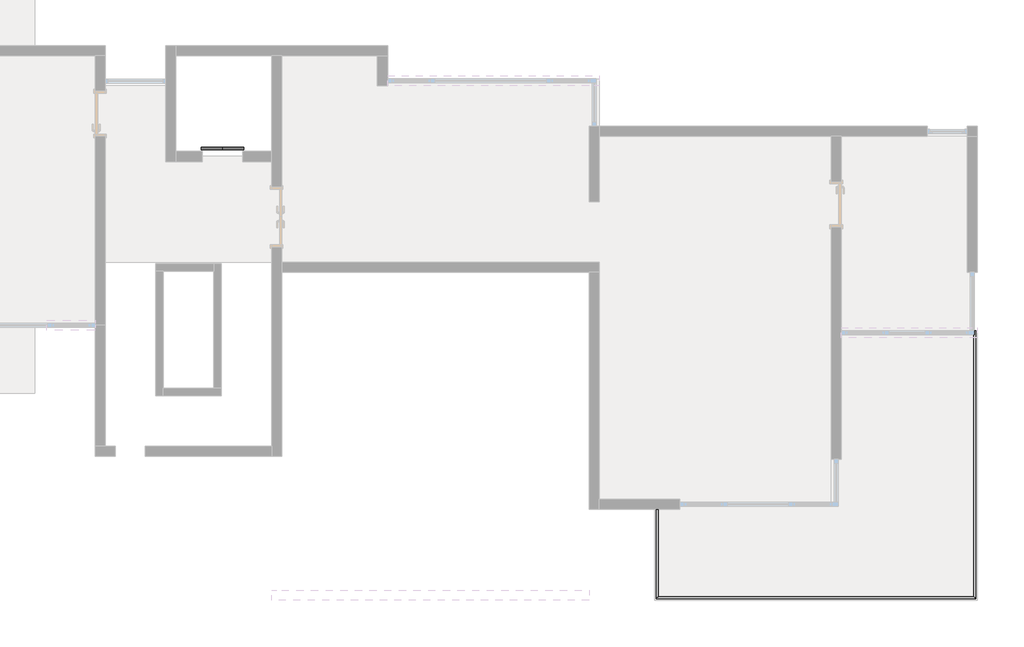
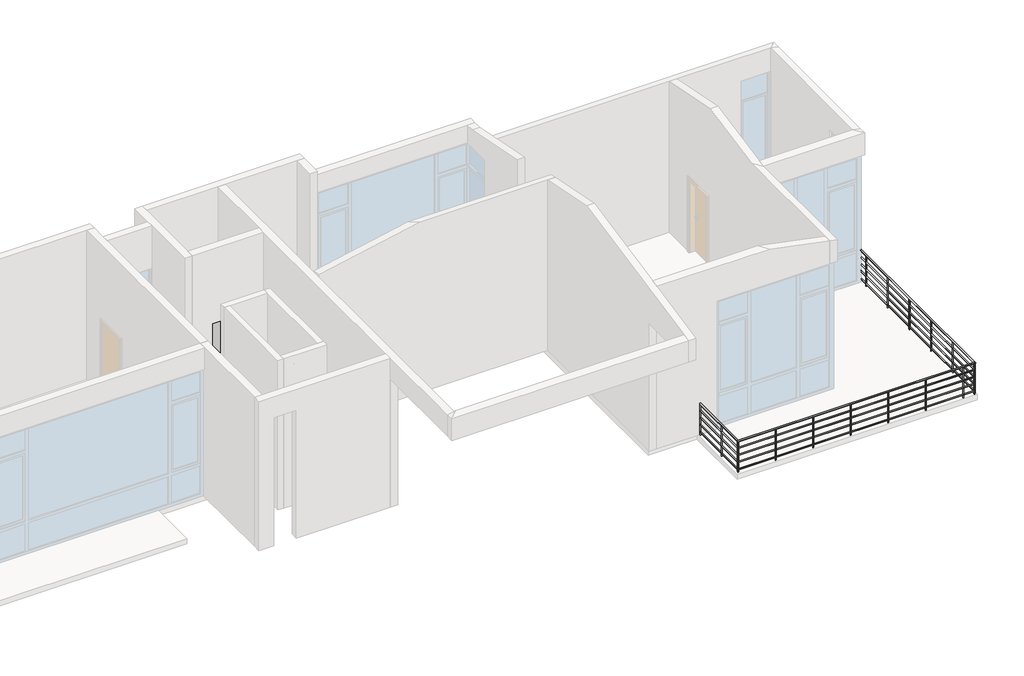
# One storey, part 3 of 3: 1 proxy, 1 railing.
"""IFC4 building model written with IfcOpenShell, lengths in millimetres."""

from ifc_helpers import new_model, si_unit, point, frame, frame_2d, origin, place, context, project, spatial, circle_curve, ellipse_curve, trimmed, segment, composite_curve, outline, extrude, transform, mapped, element, save
from ifc_brep_helpers import plane_surface, cylinder_surface, advanced_brep
from components import specialty_equipment_37f44acb

model = new_model("IFC4")

# Units and contexts
model_context = context("Model", 3, world=origin())
ifc_project = project(units=[si_unit("LENGTHUNIT", "METRE", prefix="MILLI")], contexts=[model_context])

# Site, building, storey
site = spatial("IfcSite", under=ifc_project)
building = spatial("IfcBuilding", under=site)
storey = spatial("IfcBuildingStorey", under=building, Name="二层", Elevation=3900.0)

# Proxy
placement = place(None, origin())
specialty_equipment_shape = specialty_equipment_37f44acb(model_context)
element("IfcBuildingElementProxy", 1, Name="电梯门 : 800mm_入口宽度", ObjectType="电梯门 : 800mm_入口宽度", at=placement, inside=storey, context=model_context, shape_type="MappedRepresentation", body=[
    mapped(specialty_equipment_shape, transform((139.0524305, -1121.4172231, 3900.0), x_axis=(1.0, 0.0, 0.0), y_axis=(0.0, 1.0, 0.0), z_axis=(0.0, 0.0, 1.0))),
])

# Railing
element("IfcRailing", 2, ObjectType="900mm 圆管", at=placement, inside=storey, context=model_context, shape_type="SolidModel", body=[
    advanced_brep(
    [(8739.0524305, -8121.4172231, 4780.0), (8779.0524305, -8121.4172231, 4780.0), (8739.0524305, -9891.4172231, 4780.0), (8779.0524305, -9851.4172231, 4780.0), (15079.0524305, -9891.4172231, 4780.0), (15039.0524305, -9851.4172231, 4780.0), (15079.0524305, -4581.4172231, 4780.0), (15039.0524305, -4581.4172231, 4780.0)],
    [
        (0, 1, circle_curve(frame((8759.0524305, -8121.4172231, 4780.0), z_axis=(0.0, 1.0, 0.0), x_axis=(1.0, 0.0, 0.0)), 20.0)),
        (1, 0, circle_curve(frame((8759.0524305, -8121.4172231, 4780.0), z_axis=(0.0, 1.0, 0.0), x_axis=(1.0, 0.0, 0.0)), 20.0)),
        (0, 2),
        (2, 3, ellipse_curve(frame((8759.0524305, -9871.4172231, 4780.0), z_axis=(-0.7071067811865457, 0.7071067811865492, 0.0), x_axis=(0.7071067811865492, 0.7071067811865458, 0.0)), 28.2842712, 20.0)),
        (3, 1),
        (3, 2, ellipse_curve(frame((8759.0524305, -9871.4172231, 4780.0), z_axis=(-0.7071067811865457, 0.7071067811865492, 0.0), x_axis=(0.7071067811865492, 0.7071067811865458, 0.0)), 28.2842712, 20.0)),
        (2, 4),
        (4, 5, ellipse_curve(frame((15059.0524305, -9871.4172231, 4780.0), z_axis=(-0.7071067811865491, -0.7071067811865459, 0.0), x_axis=(-0.7071067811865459, 0.7071067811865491, 0.0)), 28.2842712, 20.0)),
        (5, 3),
        (5, 4, ellipse_curve(frame((15059.0524305, -9871.4172231, 4780.0), z_axis=(-0.7071067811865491, -0.7071067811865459, 0.0), x_axis=(-0.7071067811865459, 0.7071067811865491, 0.0)), 28.2842712, 20.0)),
        (6, 7, circle_curve(frame((15059.0524305, -4581.4172231, 4780.0), z_axis=(0.0, 1.0, 0.0), x_axis=(-1.0, 0.0, 0.0)), 20.0)),
        (7, 6, circle_curve(frame((15059.0524305, -4581.4172231, 4780.0), z_axis=(0.0, 1.0, 0.0), x_axis=(-1.0, 0.0, 0.0)), 20.0)),
        (4, 6),
        (7, 5),
    ],
    [
        plane_surface(frame((8759.0524305, -8121.4172231, 4800.0), z_axis=(0.0, 1.0, 0.0), x_axis=(0.0, 0.0, -1.0))),
        cylinder_surface(frame((8759.0524305, -8121.4172231, 4780.0), z_axis=(0.0, 1.0, 0.0), x_axis=(1.0, 0.0, 0.0)), 20.0),
        cylinder_surface(frame((8759.0524305, -9871.4172231, 4780.0), z_axis=(-1.0, 0.0, 0.0), x_axis=(0.0, 1.0, 0.0)), 20.0),
        plane_surface(frame((15059.0524305, -4581.4172231, 4800.0), z_axis=(0.0, 1.0, 0.0), x_axis=(0.0, 0.0, 1.0))),
        cylinder_surface(frame((15059.0524305, -9871.4172231, 4780.0), z_axis=(0.0, -1.0, 0.0), x_axis=(-1.0, 0.0, 0.0)), 20.0),
    ],
    [
        (0, [[1, 2]]),
        (1, [[-1, 3, 4, 5]]),
        (1, [[-2, -5, 6, -3]]),
        (2, [[-4, 7, 8, 9]]),
        (2, [[-6, -9, 10, -7]]),
        (3, [[11, 12]]),
        (4, [[-8, 13, -12, 14]]),
        (4, [[-10, -14, -11, -13]]),
    ],
),
    advanced_brep(
    [(8774.0524305, -8121.4172231, 4585.0), (8744.0524305, -8121.4172231, 4585.0), (8774.0524305, -9856.4172231, 4585.0), (8744.0524305, -9886.4172231, 4585.0), (15044.0524305, -9856.4172231, 4585.0), (15074.0524305, -9886.4172231, 4585.0), (15044.0524305, -4581.4172231, 4585.0), (15074.0524305, -4581.4172231, 4585.0)],
    [
        (0, 1, circle_curve(frame((8759.0524305, -8121.4172231, 4585.0), z_axis=(0.0, 1.0, 0.0), x_axis=(-1.0, 0.0, 0.0)), 15.0)),
        (1, 0, circle_curve(frame((8759.0524305, -8121.4172231, 4585.0), z_axis=(0.0, 1.0, 0.0), x_axis=(-1.0, 0.0, 0.0)), 15.0)),
        (0, 2),
        (2, 3, ellipse_curve(frame((8759.0524305, -9871.4172231, 4585.0), z_axis=(-0.7071067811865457, 0.7071067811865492, 0.0), x_axis=(0.7071067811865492, 0.7071067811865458, 0.0)), 21.2132034, 15.0)),
        (3, 1),
        (3, 2, ellipse_curve(frame((8759.0524305, -9871.4172231, 4585.0), z_axis=(-0.7071067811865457, 0.7071067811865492, 0.0), x_axis=(0.7071067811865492, 0.7071067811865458, 0.0)), 21.2132034, 15.0)),
        (2, 4),
        (4, 5, ellipse_curve(frame((15059.0524305, -9871.4172231, 4585.0), z_axis=(-0.7071067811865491, -0.7071067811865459, 0.0), x_axis=(-0.7071067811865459, 0.7071067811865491, 0.0)), 21.2132034, 15.0)),
        (5, 3),
        (5, 4, ellipse_curve(frame((15059.0524305, -9871.4172231, 4585.0), z_axis=(-0.7071067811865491, -0.7071067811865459, 0.0), x_axis=(-0.7071067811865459, 0.7071067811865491, 0.0)), 21.2132034, 15.0)),
        (6, 7, circle_curve(frame((15059.0524305, -4581.4172231, 4585.0), z_axis=(0.0, 1.0, 0.0), x_axis=(1.0, 0.0, 0.0)), 15.0)),
        (7, 6, circle_curve(frame((15059.0524305, -4581.4172231, 4585.0), z_axis=(0.0, 1.0, 0.0), x_axis=(1.0, 0.0, 0.0)), 15.0)),
        (4, 6),
        (7, 5),
    ],
    [
        plane_surface(frame((8759.0524305, -8121.4172231, 4600.0), z_axis=(0.0, 1.0, 0.0), x_axis=(0.0, 0.0, -1.0))),
        cylinder_surface(frame((8759.0524305, -8121.4172231, 4585.0), z_axis=(0.0, 1.0, 0.0), x_axis=(-1.0, 0.0, 0.0)), 15.0),
        cylinder_surface(frame((8759.0524305, -9871.4172231, 4585.0), z_axis=(-1.0, 0.0, 0.0), x_axis=(0.0, -1.0, 0.0)), 15.0),
        plane_surface(frame((15059.0524305, -4581.4172231, 4600.0), z_axis=(0.0, 1.0, 0.0), x_axis=(0.0, 0.0, 1.0))),
        cylinder_surface(frame((15059.0524305, -9871.4172231, 4585.0), z_axis=(0.0, -1.0, 0.0), x_axis=(1.0, 0.0, 0.0)), 15.0),
    ],
    [
        (0, [[1, 2]]),
        (1, [[-1, 3, 4, 5]]),
        (1, [[-2, -5, 6, -3]]),
        (2, [[-4, 7, 8, 9]]),
        (2, [[-6, -9, 10, -7]]),
        (3, [[11, 12]]),
        (4, [[-8, 13, -12, 14]]),
        (4, [[-10, -14, -11, -13]]),
    ],
),
    advanced_brep(
    [(8774.0524305, -8121.4172231, 4385.0), (8744.0524305, -8121.4172231, 4385.0), (8774.0524305, -9856.4172231, 4385.0), (8744.0524305, -9886.4172231, 4385.0), (15044.0524305, -9856.4172231, 4385.0), (15074.0524305, -9886.4172231, 4385.0), (15044.0524305, -4581.4172231, 4385.0), (15074.0524305, -4581.4172231, 4385.0)],
    [
        (0, 1, circle_curve(frame((8759.0524305, -8121.4172231, 4385.0), z_axis=(0.0, 1.0, 0.0), x_axis=(-1.0, 0.0, 0.0)), 15.0)),
        (1, 0, circle_curve(frame((8759.0524305, -8121.4172231, 4385.0), z_axis=(0.0, 1.0, 0.0), x_axis=(-1.0, 0.0, 0.0)), 15.0)),
        (0, 2),
        (2, 3, ellipse_curve(frame((8759.0524305, -9871.4172231, 4385.0), z_axis=(-0.7071067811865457, 0.7071067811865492, 0.0), x_axis=(0.7071067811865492, 0.7071067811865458, 0.0)), 21.2132034, 15.0)),
        (3, 1),
        (3, 2, ellipse_curve(frame((8759.0524305, -9871.4172231, 4385.0), z_axis=(-0.7071067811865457, 0.7071067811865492, 0.0), x_axis=(0.7071067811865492, 0.7071067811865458, 0.0)), 21.2132034, 15.0)),
        (2, 4),
        (4, 5, ellipse_curve(frame((15059.0524305, -9871.4172231, 4385.0), z_axis=(-0.7071067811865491, -0.7071067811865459, 0.0), x_axis=(-0.7071067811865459, 0.7071067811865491, 0.0)), 21.2132034, 15.0)),
        (5, 3),
        (5, 4, ellipse_curve(frame((15059.0524305, -9871.4172231, 4385.0), z_axis=(-0.7071067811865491, -0.7071067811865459, 0.0), x_axis=(-0.7071067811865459, 0.7071067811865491, 0.0)), 21.2132034, 15.0)),
        (6, 7, circle_curve(frame((15059.0524305, -4581.4172231, 4385.0), z_axis=(0.0, 1.0, 0.0), x_axis=(1.0, 0.0, 0.0)), 15.0)),
        (7, 6, circle_curve(frame((15059.0524305, -4581.4172231, 4385.0), z_axis=(0.0, 1.0, 0.0), x_axis=(1.0, 0.0, 0.0)), 15.0)),
        (4, 6),
        (7, 5),
    ],
    [
        plane_surface(frame((8759.0524305, -8121.4172231, 4400.0), z_axis=(0.0, 1.0, 0.0), x_axis=(0.0, 0.0, -1.0))),
        cylinder_surface(frame((8759.0524305, -8121.4172231, 4385.0), z_axis=(0.0, 1.0, 0.0), x_axis=(-1.0, 0.0, 0.0)), 15.0),
        cylinder_surface(frame((8759.0524305, -9871.4172231, 4385.0), z_axis=(-1.0, 0.0, 0.0), x_axis=(0.0, -1.0, 0.0)), 15.0),
        plane_surface(frame((15059.0524305, -4581.4172231, 4400.0), z_axis=(0.0, 1.0, 0.0), x_axis=(0.0, 0.0, 1.0))),
        cylinder_surface(frame((15059.0524305, -9871.4172231, 4385.0), z_axis=(0.0, -1.0, 0.0), x_axis=(1.0, 0.0, 0.0)), 15.0),
    ],
    [
        (0, [[1, 2]]),
        (1, [[-1, 3, 4, 5]]),
        (1, [[-2, -5, 6, -3]]),
        (2, [[-4, 7, 8, 9]]),
        (2, [[-6, -9, 10, -7]]),
        (3, [[11, 12]]),
        (4, [[-8, 13, -12, 14]]),
        (4, [[-10, -14, -11, -13]]),
    ],
),
    advanced_brep(
    [(8774.0524305, -8121.4172231, 4185.0), (8744.0524305, -8121.4172231, 4185.0), (8774.0524305, -9856.4172231, 4185.0), (8744.0524305, -9886.4172231, 4185.0), (15044.0524305, -9856.4172231, 4185.0), (15074.0524305, -9886.4172231, 4185.0), (15044.0524305, -4581.4172231, 4185.0), (15074.0524305, -4581.4172231, 4185.0)],
    [
        (0, 1, circle_curve(frame((8759.0524305, -8121.4172231, 4185.0), z_axis=(0.0, 1.0, 0.0), x_axis=(-1.0, 0.0, 0.0)), 15.0)),
        (1, 0, circle_curve(frame((8759.0524305, -8121.4172231, 4185.0), z_axis=(0.0, 1.0, 0.0), x_axis=(-1.0, 0.0, 0.0)), 15.0)),
        (0, 2),
        (2, 3, ellipse_curve(frame((8759.0524305, -9871.4172231, 4185.0), z_axis=(-0.7071067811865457, 0.7071067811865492, 0.0), x_axis=(0.7071067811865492, 0.7071067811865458, 0.0)), 21.2132034, 15.0)),
        (3, 1),
        (3, 2, ellipse_curve(frame((8759.0524305, -9871.4172231, 4185.0), z_axis=(-0.7071067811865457, 0.7071067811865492, 0.0), x_axis=(0.7071067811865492, 0.7071067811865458, 0.0)), 21.2132034, 15.0)),
        (2, 4),
        (4, 5, ellipse_curve(frame((15059.0524305, -9871.4172231, 4185.0), z_axis=(-0.7071067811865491, -0.7071067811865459, 0.0), x_axis=(-0.7071067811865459, 0.7071067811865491, 0.0)), 21.2132034, 15.0)),
        (5, 3),
        (5, 4, ellipse_curve(frame((15059.0524305, -9871.4172231, 4185.0), z_axis=(-0.7071067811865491, -0.7071067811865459, 0.0), x_axis=(-0.7071067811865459, 0.7071067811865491, 0.0)), 21.2132034, 15.0)),
        (6, 7, circle_curve(frame((15059.0524305, -4581.4172231, 4185.0), z_axis=(0.0, 1.0, 0.0), x_axis=(1.0, 0.0, 0.0)), 15.0)),
        (7, 6, circle_curve(frame((15059.0524305, -4581.4172231, 4185.0), z_axis=(0.0, 1.0, 0.0), x_axis=(1.0, 0.0, 0.0)), 15.0)),
        (4, 6),
        (7, 5),
    ],
    [
        plane_surface(frame((8759.0524305, -8121.4172231, 4200.0), z_axis=(0.0, 1.0, 0.0), x_axis=(0.0, 0.0, -1.0))),
        cylinder_surface(frame((8759.0524305, -8121.4172231, 4185.0), z_axis=(0.0, 1.0, 0.0), x_axis=(-1.0, 0.0, 0.0)), 15.0),
        cylinder_surface(frame((8759.0524305, -9871.4172231, 4185.0), z_axis=(-1.0, 0.0, 0.0), x_axis=(0.0, -1.0, 0.0)), 15.0),
        plane_surface(frame((15059.0524305, -4581.4172231, 4200.0), z_axis=(0.0, 1.0, 0.0), x_axis=(0.0, 0.0, 1.0))),
        cylinder_surface(frame((15059.0524305, -9871.4172231, 4185.0), z_axis=(0.0, -1.0, 0.0), x_axis=(1.0, 0.0, 0.0)), 15.0),
    ],
    [
        (0, [[1, 2]]),
        (1, [[-1, 3, 4, 5]]),
        (1, [[-2, -5, 6, -3]]),
        (2, [[-4, 7, 8, 9]]),
        (2, [[-6, -9, 10, -7]]),
        (3, [[11, 12]]),
        (4, [[-8, 13, -12, 14]]),
        (4, [[-10, -14, -11, -13]]),
    ],
),
    advanced_brep(
    [(8774.0524305, -8121.4172231, 3985.0), (8744.0524305, -8121.4172231, 3985.0), (8774.0524305, -9856.4172231, 3985.0), (8744.0524305, -9886.4172231, 3985.0), (15044.0524305, -9856.4172231, 3985.0), (15074.0524305, -9886.4172231, 3985.0), (15044.0524305, -4581.4172231, 3985.0), (15074.0524305, -4581.4172231, 3985.0)],
    [
        (0, 1, circle_curve(frame((8759.0524305, -8121.4172231, 3985.0), z_axis=(0.0, 1.0, 0.0), x_axis=(-1.0, 0.0, 0.0)), 15.0)),
        (1, 0, circle_curve(frame((8759.0524305, -8121.4172231, 3985.0), z_axis=(0.0, 1.0, 0.0), x_axis=(-1.0, 0.0, 0.0)), 15.0)),
        (0, 2),
        (2, 3, ellipse_curve(frame((8759.0524305, -9871.4172231, 3985.0), z_axis=(-0.7071067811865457, 0.7071067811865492, 0.0), x_axis=(0.7071067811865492, 0.7071067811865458, 0.0)), 21.2132034, 15.0)),
        (3, 1),
        (3, 2, ellipse_curve(frame((8759.0524305, -9871.4172231, 3985.0), z_axis=(-0.7071067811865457, 0.7071067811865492, 0.0), x_axis=(0.7071067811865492, 0.7071067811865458, 0.0)), 21.2132034, 15.0)),
        (2, 4),
        (4, 5, ellipse_curve(frame((15059.0524305, -9871.4172231, 3985.0), z_axis=(-0.7071067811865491, -0.7071067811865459, 0.0), x_axis=(-0.7071067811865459, 0.7071067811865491, 0.0)), 21.2132034, 15.0)),
        (5, 3),
        (5, 4, ellipse_curve(frame((15059.0524305, -9871.4172231, 3985.0), z_axis=(-0.7071067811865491, -0.7071067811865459, 0.0), x_axis=(-0.7071067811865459, 0.7071067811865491, 0.0)), 21.2132034, 15.0)),
        (6, 7, circle_curve(frame((15059.0524305, -4581.4172231, 3985.0), z_axis=(0.0, 1.0, 0.0), x_axis=(1.0, 0.0, 0.0)), 15.0)),
        (7, 6, circle_curve(frame((15059.0524305, -4581.4172231, 3985.0), z_axis=(0.0, 1.0, 0.0), x_axis=(1.0, 0.0, 0.0)), 15.0)),
        (4, 6),
        (7, 5),
    ],
    [
        plane_surface(frame((8759.0524305, -8121.4172231, 4000.0), z_axis=(0.0, 1.0, 0.0), x_axis=(0.0, 0.0, -1.0))),
        cylinder_surface(frame((8759.0524305, -8121.4172231, 3985.0), z_axis=(0.0, 1.0, 0.0), x_axis=(-1.0, 0.0, 0.0)), 15.0),
        cylinder_surface(frame((8759.0524305, -9871.4172231, 3985.0), z_axis=(-1.0, 0.0, 0.0), x_axis=(0.0, -1.0, 0.0)), 15.0),
        plane_surface(frame((15059.0524305, -4581.4172231, 4000.0), z_axis=(0.0, 1.0, 0.0), x_axis=(0.0, 0.0, 1.0))),
        cylinder_surface(frame((15059.0524305, -9871.4172231, 3985.0), z_axis=(0.0, -1.0, 0.0), x_axis=(1.0, 0.0, 0.0)), 15.0),
    ],
    [
        (0, [[1, 2]]),
        (1, [[-1, 3, 4, 5]]),
        (1, [[-2, -5, 6, -3]]),
        (2, [[-4, 7, 8, 9]]),
        (2, [[-6, -9, 10, -7]]),
        (3, [[11, 12]]),
        (4, [[-8, 13, -12, 14]]),
        (4, [[-10, -14, -11, -13]]),
    ],
),
    extrude(outline(composite_curve([segment(trimmed(circle_curve(frame_2d((15059.0524305, -4871.4172231)), 12.5), [point((15046.5524305, -4871.4172231))], [point((15071.5524305, -4871.4172231))], False, "CARTESIAN"), True, "CONTINUOUS"), segment(trimmed(circle_curve(frame_2d((15059.0524305, -4871.4172231)), 12.5), [point((15071.5524305, -4871.4172231))], [point((15046.5524305, -4871.4172231))], False, "CARTESIAN"), True, "CONTINUOUS")], self_intersect=False)), frame((0.0, 0.0, 3900.0), z_axis=(0.0, 0.0, 1.0), x_axis=(1.0, 0.0, 0.0)), (0.0, 0.0, 1.0), 860.0),
    extrude(outline(composite_curve([segment(trimmed(circle_curve(frame_2d((15059.0524305, -5871.4172231)), 12.5), [point((15046.5524305, -5871.4172231))], [point((15071.5524305, -5871.4172231))], False, "CARTESIAN"), True, "CONTINUOUS"), segment(trimmed(circle_curve(frame_2d((15059.0524305, -5871.4172231)), 12.5), [point((15071.5524305, -5871.4172231))], [point((15046.5524305, -5871.4172231))], False, "CARTESIAN"), True, "CONTINUOUS")], self_intersect=False)), frame((0.0, 0.0, 3900.0), z_axis=(0.0, 0.0, 1.0), x_axis=(1.0, 0.0, 0.0)), (0.0, 0.0, 1.0), 860.0),
    extrude(outline(composite_curve([segment(trimmed(circle_curve(frame_2d((15059.0524305, -6871.4172231)), 12.5), [point((15046.5524305, -6871.4172231))], [point((15071.5524305, -6871.4172231))], False, "CARTESIAN"), True, "CONTINUOUS"), segment(trimmed(circle_curve(frame_2d((15059.0524305, -6871.4172231)), 12.5), [point((15071.5524305, -6871.4172231))], [point((15046.5524305, -6871.4172231))], False, "CARTESIAN"), True, "CONTINUOUS")], self_intersect=False)), frame((0.0, 0.0, 3900.0), z_axis=(0.0, 0.0, 1.0), x_axis=(1.0, 0.0, 0.0)), (0.0, 0.0, 1.0), 860.0),
    extrude(outline(composite_curve([segment(trimmed(circle_curve(frame_2d((15059.0524305, -7871.4172231)), 12.5), [point((15046.5524305, -7871.4172231))], [point((15071.5524305, -7871.4172231))], False, "CARTESIAN"), True, "CONTINUOUS"), segment(trimmed(circle_curve(frame_2d((15059.0524305, -7871.4172231)), 12.5), [point((15071.5524305, -7871.4172231))], [point((15046.5524305, -7871.4172231))], False, "CARTESIAN"), True, "CONTINUOUS")], self_intersect=False)), frame((0.0, 0.0, 3900.0), z_axis=(0.0, 0.0, 1.0), x_axis=(1.0, 0.0, 0.0)), (0.0, 0.0, 1.0), 860.0),
    extrude(outline(composite_curve([segment(trimmed(circle_curve(frame_2d((15059.0524305, -8871.4172231)), 12.5), [point((15046.5524305, -8871.4172231))], [point((15071.5524305, -8871.4172231))], False, "CARTESIAN"), True, "CONTINUOUS"), segment(trimmed(circle_curve(frame_2d((15059.0524305, -8871.4172231)), 12.5), [point((15071.5524305, -8871.4172231))], [point((15046.5524305, -8871.4172231))], False, "CARTESIAN"), True, "CONTINUOUS")], self_intersect=False)), frame((0.0, 0.0, 3900.0), z_axis=(0.0, 0.0, 1.0), x_axis=(1.0, 0.0, 0.0)), (0.0, 0.0, 1.0), 860.0),
    extrude(outline(composite_curve([segment(trimmed(circle_curve(frame_2d((14759.0524305, -9871.4172231)), 12.5), [point((14759.0524305, -9858.9172231))], [point((14759.0524305, -9883.9172231))], False, "CARTESIAN"), True, "CONTINUOUS"), segment(trimmed(circle_curve(frame_2d((14759.0524305, -9871.4172231)), 12.5), [point((14759.0524305, -9883.9172231))], [point((14759.0524305, -9858.9172231))], False, "CARTESIAN"), True, "CONTINUOUS")], self_intersect=False)), frame((0.0, 0.0, 3900.0), z_axis=(0.0, 0.0, 1.0), x_axis=(1.0, 0.0, 0.0)), (0.0, 0.0, 1.0), 860.0),
    extrude(outline(composite_curve([segment(trimmed(circle_curve(frame_2d((13759.0524305, -9871.4172231)), 12.5), [point((13759.0524305, -9858.9172231))], [point((13759.0524305, -9883.9172231))], False, "CARTESIAN"), True, "CONTINUOUS"), segment(trimmed(circle_curve(frame_2d((13759.0524305, -9871.4172231)), 12.5), [point((13759.0524305, -9883.9172231))], [point((13759.0524305, -9858.9172231))], False, "CARTESIAN"), True, "CONTINUOUS")], self_intersect=False)), frame((0.0, 0.0, 3900.0), z_axis=(0.0, 0.0, 1.0), x_axis=(1.0, 0.0, 0.0)), (0.0, 0.0, 1.0), 860.0),
    extrude(outline(composite_curve([segment(trimmed(circle_curve(frame_2d((12759.0524305, -9871.4172231)), 12.5), [point((12759.0524305, -9858.9172231))], [point((12759.0524305, -9883.9172231))], False, "CARTESIAN"), True, "CONTINUOUS"), segment(trimmed(circle_curve(frame_2d((12759.0524305, -9871.4172231)), 12.5), [point((12759.0524305, -9883.9172231))], [point((12759.0524305, -9858.9172231))], False, "CARTESIAN"), True, "CONTINUOUS")], self_intersect=False)), frame((0.0, 0.0, 3900.0), z_axis=(0.0, 0.0, 1.0), x_axis=(1.0, 0.0, 0.0)), (0.0, 0.0, 1.0), 860.0),
    extrude(outline(composite_curve([segment(trimmed(circle_curve(frame_2d((11759.0524305, -9871.4172231)), 12.5), [point((11759.0524305, -9858.9172231))], [point((11759.0524305, -9883.9172231))], False, "CARTESIAN"), True, "CONTINUOUS"), segment(trimmed(circle_curve(frame_2d((11759.0524305, -9871.4172231)), 12.5), [point((11759.0524305, -9883.9172231))], [point((11759.0524305, -9858.9172231))], False, "CARTESIAN"), True, "CONTINUOUS")], self_intersect=False)), frame((0.0, 0.0, 3900.0), z_axis=(0.0, 0.0, 1.0), x_axis=(1.0, 0.0, 0.0)), (0.0, 0.0, 1.0), 860.0),
    extrude(outline(composite_curve([segment(trimmed(circle_curve(frame_2d((10759.0524305, -9871.4172231)), 12.5), [point((10759.0524305, -9858.9172231))], [point((10759.0524305, -9883.9172231))], False, "CARTESIAN"), True, "CONTINUOUS"), segment(trimmed(circle_curve(frame_2d((10759.0524305, -9871.4172231)), 12.5), [point((10759.0524305, -9883.9172231))], [point((10759.0524305, -9858.9172231))], False, "CARTESIAN"), True, "CONTINUOUS")], self_intersect=False)), frame((0.0, 0.0, 3900.0), z_axis=(0.0, 0.0, 1.0), x_axis=(1.0, 0.0, 0.0)), (0.0, 0.0, 1.0), 860.0),
    extrude(outline(composite_curve([segment(trimmed(circle_curve(frame_2d((9759.0524305, -9871.4172231)), 12.5), [point((9759.0524305, -9858.9172231))], [point((9759.0524305, -9883.9172231))], False, "CARTESIAN"), True, "CONTINUOUS"), segment(trimmed(circle_curve(frame_2d((9759.0524305, -9871.4172231)), 12.5), [point((9759.0524305, -9883.9172231))], [point((9759.0524305, -9858.9172231))], False, "CARTESIAN"), True, "CONTINUOUS")], self_intersect=False)), frame((0.0, 0.0, 3900.0), z_axis=(0.0, 0.0, 1.0), x_axis=(1.0, 0.0, 0.0)), (0.0, 0.0, 1.0), 860.0),
    extrude(outline(composite_curve([segment(trimmed(circle_curve(frame_2d((8759.0524305, -9121.4172231)), 12.5), [point((8771.5524305, -9121.4172231))], [point((8746.5524305, -9121.4172231))], False, "CARTESIAN"), True, "CONTINUOUS"), segment(trimmed(circle_curve(frame_2d((8759.0524305, -9121.4172231)), 12.5), [point((8746.5524305, -9121.4172231))], [point((8771.5524305, -9121.4172231))], False, "CARTESIAN"), True, "CONTINUOUS")], self_intersect=False)), frame((0.0, 0.0, 3900.0), z_axis=(0.0, 0.0, 1.0), x_axis=(1.0, 0.0, 0.0)), (0.0, 0.0, 1.0), 860.0),
    extrude(outline(composite_curve([segment(trimmed(circle_curve(frame_2d((15059.0524305, -9871.4172231)), 12.5), [point((15059.0524305, -9858.9172231))], [point((15059.0524305, -9883.9172231))], False, "CARTESIAN"), True, "CONTINUOUS"), segment(trimmed(circle_curve(frame_2d((15059.0524305, -9871.4172231)), 12.5), [point((15059.0524305, -9883.9172231))], [point((15059.0524305, -9858.9172231))], False, "CARTESIAN"), True, "CONTINUOUS")], self_intersect=False)), frame((0.0, 0.0, 3900.0), z_axis=(0.0, 0.0, 1.0), x_axis=(1.0, 0.0, 0.0)), (0.0, 0.0, 1.0), 860.0),
    extrude(outline(composite_curve([segment(trimmed(circle_curve(frame_2d((8759.0524305, -9871.4172231)), 12.5), [point((8771.5524305, -9871.4172231))], [point((8746.5524305, -9871.4172231))], False, "CARTESIAN"), True, "CONTINUOUS"), segment(trimmed(circle_curve(frame_2d((8759.0524305, -9871.4172231)), 12.5), [point((8746.5524305, -9871.4172231))], [point((8771.5524305, -9871.4172231))], False, "CARTESIAN"), True, "CONTINUOUS")], self_intersect=False)), frame((0.0, 0.0, 3900.0), z_axis=(0.0, 0.0, 1.0), x_axis=(1.0, 0.0, 0.0)), (0.0, 0.0, 1.0), 860.0),
    extrude(outline(composite_curve([segment(trimmed(circle_curve(frame_2d((15059.0524305, -4593.9172231)), 12.5), [point((15046.5524305, -4593.9172231))], [point((15071.5524305, -4593.9172231))], False, "CARTESIAN"), True, "CONTINUOUS"), segment(trimmed(circle_curve(frame_2d((15059.0524305, -4593.9172231)), 12.5), [point((15071.5524305, -4593.9172231))], [point((15046.5524305, -4593.9172231))], False, "CARTESIAN"), True, "CONTINUOUS")], self_intersect=False)), frame((0.0, 0.0, 3900.0), z_axis=(0.0, 0.0, 1.0), x_axis=(1.0, 0.0, 0.0)), (0.0, 0.0, 1.0), 860.0),
    extrude(outline(composite_curve([segment(trimmed(circle_curve(frame_2d((8759.0524305, -8133.9172231)), 12.5), [point((8771.5524305, -8133.9172231))], [point((8746.5524305, -8133.9172231))], False, "CARTESIAN"), True, "CONTINUOUS"), segment(trimmed(circle_curve(frame_2d((8759.0524305, -8133.9172231)), 12.5), [point((8746.5524305, -8133.9172231))], [point((8771.5524305, -8133.9172231))], False, "CARTESIAN"), True, "CONTINUOUS")], self_intersect=False)), frame((0.0, 0.0, 3900.0), z_axis=(0.0, 0.0, 1.0), x_axis=(1.0, 0.0, 0.0)), (0.0, 0.0, 1.0), 860.0),
])

save(model, "model.ifc")
